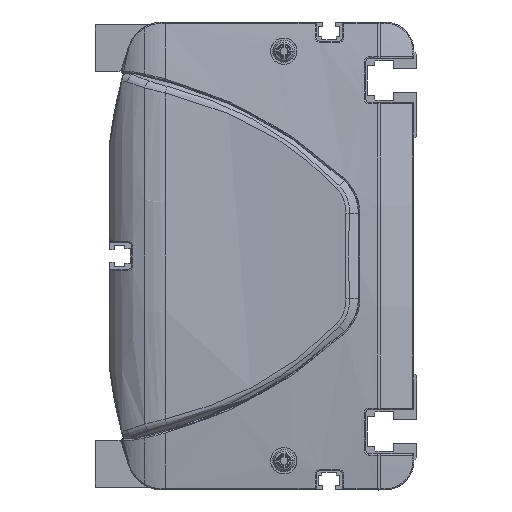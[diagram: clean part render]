
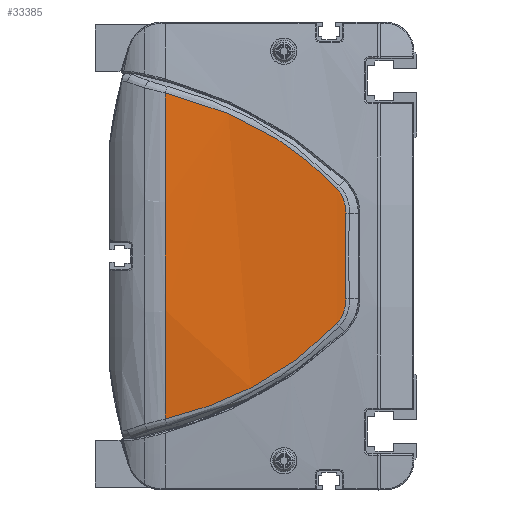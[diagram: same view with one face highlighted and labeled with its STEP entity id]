
A CAD part, left-side view. The second image highlights one B-rep face of the part: STEP entity #33385.
In plain terms, the highlighted cylindrical face has radius 600 mm (diameter 1200 mm), a partial arc.
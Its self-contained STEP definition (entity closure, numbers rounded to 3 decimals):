
#11140=CARTESIAN_POINT('',(-12.406,86.,
55.736));
#11141=CARTESIAN_POINT('',(-12.529,80.495,
54.41));
#11142=CARTESIAN_POINT('',(-12.828,69.636,
51.114));
#11143=CARTESIAN_POINT('',(-13.389,54.079,
44.179));
#11144=CARTESIAN_POINT('',(-14.01,39.709,
34.979));
#11145=CARTESIAN_POINT('',(-14.395,31.353,
27.243));
#11146=CARTESIAN_POINT('',(-14.555,27.451,
23.113));
#11148=CARTESIAN_POINT('',(-14.555,27.451,
23.113));
#11149=CARTESIAN_POINT('',(-14.598,26.394,
21.994));
#11150=CARTESIAN_POINT('',(-14.695,24.746,
19.315));
#11151=CARTESIAN_POINT('',(-14.783,24.276,
16.208));
#11152=CARTESIAN_POINT('',(-14.821,24.351,
14.67));
#11154=CARTESIAN_POINT('',(-14.821,24.351,
14.67));
#11155=CARTESIAN_POINT('',(-14.9,24.51,
11.413));
#11156=CARTESIAN_POINT('',(-15.007,24.721,
4.895));
#11157=CARTESIAN_POINT('',(-15.007,24.721,
-4.895));
#11158=CARTESIAN_POINT('',(-14.9,24.51,
-11.413));
#11159=CARTESIAN_POINT('',(-14.821,24.351,
-14.67));
#11161=CARTESIAN_POINT('',(-14.821,24.351,
-14.67));
#11162=CARTESIAN_POINT('',(-14.783,24.276,
-16.208));
#11163=CARTESIAN_POINT('',(-14.695,24.746,
-19.315));
#11164=CARTESIAN_POINT('',(-14.598,26.394,
-21.995));
#11165=CARTESIAN_POINT('',(-14.555,27.451,
-23.113));
#11167=CARTESIAN_POINT('',(-14.555,27.451,
-23.113));
#11168=CARTESIAN_POINT('',(-14.395,31.353,
-27.243));
#11169=CARTESIAN_POINT('',(-14.01,39.709,
-34.979));
#11170=CARTESIAN_POINT('',(-13.389,54.079,
-44.179));
#11171=CARTESIAN_POINT('',(-12.828,69.636,
-51.114));
#11172=CARTESIAN_POINT('',(-12.529,80.495,
-54.41));
#11173=CARTESIAN_POINT('',(-12.406,86.,
-55.736));
#11175=CARTESIAN_POINT('',(585.,86.,0.));
#11176=DIRECTION('',(0.,1.,0.));
#11177=DIRECTION('',(-0.996,0.,-0.093));
#11178=AXIS2_PLACEMENT_3D('',#11175,#11176,#11177);
#11191=CARTESIAN_POINT('',(-12.406,86.,
55.736));
#14089=VERTEX_POINT('',#11191);
#14090=CARTESIAN_POINT('',(-12.406,86.,
-55.736));
#14091=VERTEX_POINT('',#14090);
#14141=VERTEX_POINT('',#11146);
#14142=VERTEX_POINT('',#11152);
#14143=VERTEX_POINT('',#11159);
#14144=VERTEX_POINT('',#11165);
#33367=CARTESIAN_POINT('',(585.,87.45,0.));
#33368=DIRECTION('',(0.,-1.,0.));
#33369=DIRECTION('',(0.,0.,-1.));
#33370=AXIS2_PLACEMENT_3D('',#33367,#33368,#33369);
#33371=CYLINDRICAL_SURFACE('',#33370,600.);
#33373=ORIENTED_EDGE('',*,*,#33372,.T.);
#33375=ORIENTED_EDGE('',*,*,#33374,.T.);
#33376=ORIENTED_EDGE('',*,*,#33357,.T.);
#33378=ORIENTED_EDGE('',*,*,#33377,.T.);
#33380=ORIENTED_EDGE('',*,*,#33379,.T.);
#33382=ORIENTED_EDGE('',*,*,#33381,.T.);
#33383=EDGE_LOOP('',(#33373,#33375,#33376,#33378,#33380,#33382));
#33384=FACE_OUTER_BOUND('',#33383,.F.);
#33385=ADVANCED_FACE('',(#33384),#33371,.T.);
#11147=B_SPLINE_CURVE_WITH_KNOTS('',3,(#11140,#11141,#11142,#11143,#11144,
#11145,#11146),.UNSPECIFIED.,.F.,.F.,(4,1,1,1,4),(0.,0.25,0.5,0.75,
1.),.UNSPECIFIED.);
#11153=B_SPLINE_CURVE_WITH_KNOTS('',3,(#11148,#11149,#11150,#11151,#11152),
.UNSPECIFIED.,.F.,.F.,(4,1,4),(0.,0.5,1.),.UNSPECIFIED.);
#11160=B_SPLINE_CURVE_WITH_KNOTS('',3,(#11154,#11155,#11156,#11157,#11158,
#11159),.UNSPECIFIED.,.F.,.F.,(4,1,1,4),(0.,0.333,
0.667,1.),.UNSPECIFIED.);
#11166=B_SPLINE_CURVE_WITH_KNOTS('',3,(#11161,#11162,#11163,#11164,#11165),
.UNSPECIFIED.,.F.,.F.,(4,1,4),(0.,0.5,1.),.UNSPECIFIED.);
#11174=B_SPLINE_CURVE_WITH_KNOTS('',3,(#11167,#11168,#11169,#11170,#11171,
#11172,#11173),.UNSPECIFIED.,.F.,.F.,(4,1,1,1,4),(0.,0.25,0.5,0.75,
1.),.UNSPECIFIED.);
#11179=CIRCLE('',#11178,600.);
#33357=EDGE_CURVE('',#14142,#14143,#11160,.T.);
#33372=EDGE_CURVE('',#14089,#14141,#11147,.T.);
#33374=EDGE_CURVE('',#14141,#14142,#11153,.T.);
#33377=EDGE_CURVE('',#14143,#14144,#11166,.T.);
#33379=EDGE_CURVE('',#14144,#14091,#11174,.T.);
#33381=EDGE_CURVE('',#14091,#14089,#11179,.T.);
